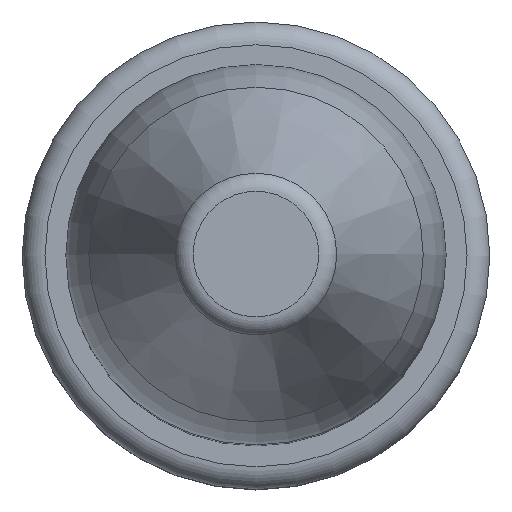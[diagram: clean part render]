
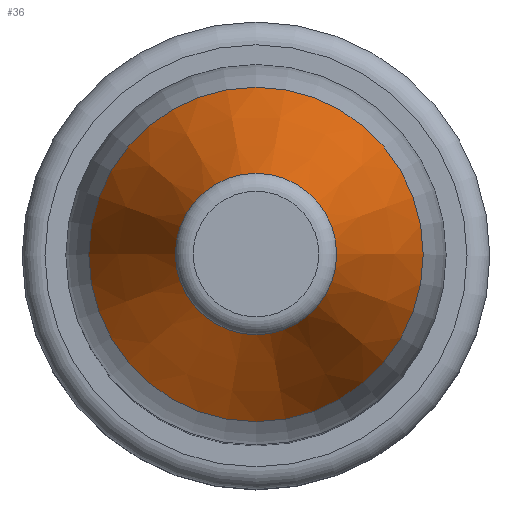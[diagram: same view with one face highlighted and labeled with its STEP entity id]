
A CAD part, top view. The second image highlights one B-rep face of the part: STEP entity #36.
In plain terms, the highlighted conical face has half-angle 20 degrees and reference radius 5.584 mm.
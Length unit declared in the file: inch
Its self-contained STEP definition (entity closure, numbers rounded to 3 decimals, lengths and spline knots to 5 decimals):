
#1 = CIRCLE ( 'NONE', #60, 0.21985 ) ;
#6 = EDGE_LOOP ( 'NONE', ( #107 ) ) ;
#15 = FACE_OUTER_BOUND ( 'NONE', #6, .T. ) ;
#17 = AXIS2_PLACEMENT_3D ( 'NONE', #190, #228, #83 ) ;
#36 = ADVANCED_FACE ( 'NONE', ( #144, #15 ), #129, .T. ) ;
#47 = DIRECTION ( 'NONE',  ( 0., 0., 1. ) ) ;
#58 = EDGE_LOOP ( 'NONE', ( #198 ) ) ;
#60 = AXIS2_PLACEMENT_3D ( 'NONE', #121, #173, #117 ) ;
#71 = EDGE_CURVE ( 'NONE', #209, #209, #183, .T. ) ;
#83 = DIRECTION ( 'NONE',  ( -1., 0., 0. ) ) ;
#99 = CARTESIAN_POINT ( 'NONE',  ( 0.10609, 0., 1.58355 ) ) ;
#105 = CARTESIAN_POINT ( 'NONE',  ( 0., 0., 1.58355 ) ) ;
#107 = ORIENTED_EDGE ( 'NONE', *, *, #138, .T. ) ;
#117 = DIRECTION ( 'NONE',  ( 1., 0., 0. ) ) ;
#121 = CARTESIAN_POINT ( 'NONE',  ( 0., 0., 1.27101 ) ) ;
#129 = CONICAL_SURFACE ( 'NONE', #17, 0.21985, 0.349 ) ;
#138 = EDGE_CURVE ( 'NONE', #172, #172, #1, .T. ) ;
#144 = FACE_BOUND ( 'NONE', #58, .T. ) ;
#157 = CARTESIAN_POINT ( 'NONE',  ( 0.21985, 0., 1.27101 ) ) ;
#168 = AXIS2_PLACEMENT_3D ( 'NONE', #105, #47, #226 ) ;
#172 = VERTEX_POINT ( 'NONE', #157 ) ;
#173 = DIRECTION ( 'NONE',  ( 0., 0., 1. ) ) ;
#183 = CIRCLE ( 'NONE', #168, 0.10609 ) ;
#190 = CARTESIAN_POINT ( 'NONE',  ( 0., 0., 1.27101 ) ) ;
#198 = ORIENTED_EDGE ( 'NONE', *, *, #71, .F. ) ;
#209 = VERTEX_POINT ( 'NONE', #99 ) ;
#226 = DIRECTION ( 'NONE',  ( 1., 0., 0. ) ) ;
#228 = DIRECTION ( 'NONE',  ( 0., 0., -1. ) ) ;
